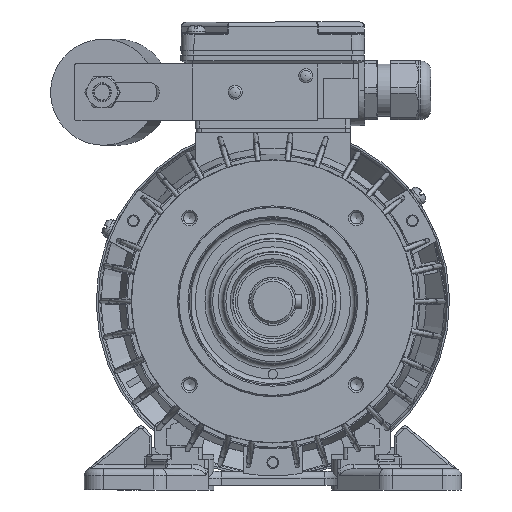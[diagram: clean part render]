
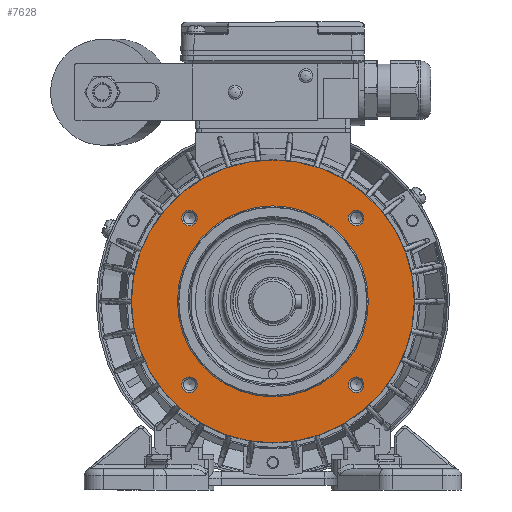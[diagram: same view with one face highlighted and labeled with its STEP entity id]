
A CAD part, left-side view. The second image highlights one B-rep face of the part: STEP entity #7628.
In plain terms, the highlighted planar face has unit normal (-1, 0, 0) as drawn and (0, -1, 0) by its records, which use the part's own axes.
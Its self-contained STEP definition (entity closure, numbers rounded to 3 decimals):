
#7628 = ADVANCED_FACE( '', ( #15541, #15542, #15543, #15544, #15545, #15546 ), #15547, .T. );
#15541 = FACE_BOUND( '', #40525, .T. );
#15542 = FACE_BOUND( '', #40526, .T. );
#15543 = FACE_BOUND( '', #40527, .T. );
#15544 = FACE_BOUND( '', #40528, .T. );
#15545 = FACE_BOUND( '', #40529, .T. );
#15546 = FACE_OUTER_BOUND( '', #40530, .T. );
#15547 = PLANE( '', #40531 );
#40525 = EDGE_LOOP( '', ( #63380 ) );
#40526 = EDGE_LOOP( '', ( #63381 ) );
#40527 = EDGE_LOOP( '', ( #63382 ) );
#40528 = EDGE_LOOP( '', ( #63383 ) );
#40529 = EDGE_LOOP( '', ( #63384 ) );
#40530 = EDGE_LOOP( '', ( #63385 ) );
#40531 = AXIS2_PLACEMENT_3D( '', #63386, #63387, #63388 );
#63380 = ORIENTED_EDGE( '', *, *, #75770, .T. );
#63381 = ORIENTED_EDGE( '', *, *, #73596, .T. );
#63382 = ORIENTED_EDGE( '', *, *, #75918, .T. );
#63383 = ORIENTED_EDGE( '', *, *, #71713, .T. );
#63384 = ORIENTED_EDGE( '', *, *, #74320, .T. );
#63385 = ORIENTED_EDGE( '', *, *, #69788, .T. );
#63386 = CARTESIAN_POINT( '', ( 0., 3., 40. ) );
#63387 = DIRECTION( '', ( 0., -1., 0. ) );
#63388 = DIRECTION( '', ( 0., 0., -1. ) );
#69788 = EDGE_CURVE( '', #82525, #82525, #82526, .T. );
#71713 = EDGE_CURVE( '', #85593, #85593, #85594, .F. );
#73596 = EDGE_CURVE( '', #88241, #88241, #88242, .F. );
#74320 = EDGE_CURVE( '', #89178, #89178, #89179, .F. );
#75770 = EDGE_CURVE( '', #90933, #90933, #90934, .F. );
#75918 = EDGE_CURVE( '', #91100, #91100, #91101, .F. );
#82525 = VERTEX_POINT( '', #101629 );
#82526 = CIRCLE( '', #101630, 60. );
#85593 = VERTEX_POINT( '', #110657 );
#85594 = CIRCLE( '', #110658, 3.3 );
#88241 = VERTEX_POINT( '', #117287 );
#88242 = CIRCLE( '', #117288, 3.3 );
#89178 = VERTEX_POINT( '', #119596 );
#89179 = CIRCLE( '', #119597, 40.5 );
#90933 = VERTEX_POINT( '', #123089 );
#90934 = CIRCLE( '', #123090, 3.3 );
#91100 = VERTEX_POINT( '', #123407 );
#91101 = CIRCLE( '', #123408, 3.3 );
#101629 = CARTESIAN_POINT( '', ( 0., 3., -60. ) );
#101630 = AXIS2_PLACEMENT_3D( '', #128775, #128776, #128777 );
#110657 = CARTESIAN_POINT( '', ( -35.355, 3., 32.055 ) );
#110658 = AXIS2_PLACEMENT_3D( '', #131040, #131041, #131042 );
#117287 = CARTESIAN_POINT( '', ( 35.355, 3., -38.655 ) );
#117288 = AXIS2_PLACEMENT_3D( '', #132982, #132983, #132984 );
#119596 = CARTESIAN_POINT( '', ( 0., 3., -40.5 ) );
#119597 = AXIS2_PLACEMENT_3D( '', #133641, #133642, #133643 );
#123089 = CARTESIAN_POINT( '', ( -35.355, 3., -38.655 ) );
#123090 = AXIS2_PLACEMENT_3D( '', #135098, #135099, #135100 );
#123407 = CARTESIAN_POINT( '', ( 35.355, 3., 32.055 ) );
#123408 = AXIS2_PLACEMENT_3D( '', #135194, #135195, #135196 );
#128775 = CARTESIAN_POINT( '', ( 0., 3., 0. ) );
#128776 = DIRECTION( '', ( 0., -1., 0. ) );
#128777 = DIRECTION( '', ( 0., 0., -1. ) );
#131040 = CARTESIAN_POINT( '', ( -35.355, 3., 35.355 ) );
#131041 = DIRECTION( '', ( 0., -1., 0. ) );
#131042 = DIRECTION( '', ( 0., 0., -1. ) );
#132982 = CARTESIAN_POINT( '', ( 35.355, 3., -35.355 ) );
#132983 = DIRECTION( '', ( 0., -1., 0. ) );
#132984 = DIRECTION( '', ( 0., 0., -1. ) );
#133641 = CARTESIAN_POINT( '', ( 0., 3., 0. ) );
#133642 = DIRECTION( '', ( 0., -1., 0. ) );
#133643 = DIRECTION( '', ( 0., 0., -1. ) );
#135098 = CARTESIAN_POINT( '', ( -35.355, 3., -35.355 ) );
#135099 = DIRECTION( '', ( 0., -1., 0. ) );
#135100 = DIRECTION( '', ( 0., 0., -1. ) );
#135194 = CARTESIAN_POINT( '', ( 35.355, 3., 35.355 ) );
#135195 = DIRECTION( '', ( 0., -1., 0. ) );
#135196 = DIRECTION( '', ( 0., 0., -1. ) );
